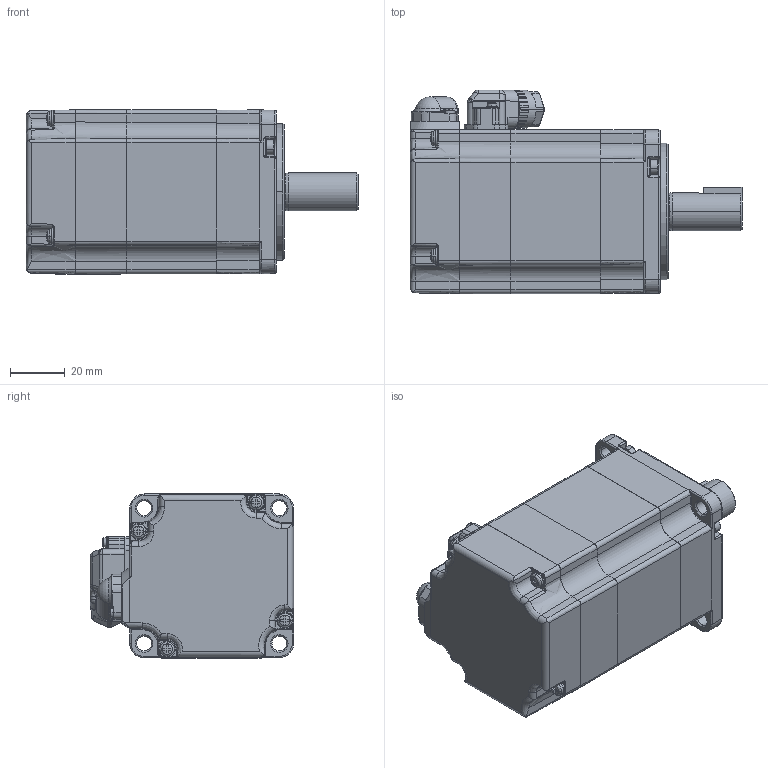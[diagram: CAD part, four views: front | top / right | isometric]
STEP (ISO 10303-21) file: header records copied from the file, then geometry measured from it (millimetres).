
FILE_DESCRIPTION( (''), '2;1');
FILE_NAME ('SGMXJ-04AUA6SC2.stp','2022-03-02T11:28:24',(''),(''),'spGate 15.6.6','','');
FILE_SCHEMA (('AUTOMOTIVE_DESIGN'));
Length unit declared in the file: millimetre
Products named in the file (9): Assembly; SGMXJ-04AUA6SC2-prt0; SGMXJ-04AUA6SC2-prt1; SGMXJ-04AUA6SC2-prt2; SGMXJ-04AUA6SC2-prt3; SGMXJ-04AUA6SC2-prt4; SGMXJ-04AUA6SC2-prt5; SGMXJ-04AUA6SC2-prt6; SGMXJ-04AUA6SC2-prt7
Assembly tree (8 placements, depth 2):
  Assembly
    SGMXJ-04AUA6SC2-prt0
    SGMXJ-04AUA6SC2-prt1
    SGMXJ-04AUA6SC2-prt2
    SGMXJ-04AUA6SC2-prt3
    SGMXJ-04AUA6SC2-prt4
    SGMXJ-04AUA6SC2-prt5
    SGMXJ-04AUA6SC2-prt6
    SGMXJ-04AUA6SC2-prt7
Bounding box: 121.5 x 74.58 x 60.27 mm (x, y, z)
Volume: 306806.6 mm3; surface area: 34121.8 mm2
Topology: 3 solids, 8 shells, 973 faces, 2527 edges, 1559 vertices
Faces by surface type: plane 365, cylinder 300, bspline 286, sphere 22
Entity records: 55507 total; most frequent: CARTESIAN_POINT 12956, ORIENTED_EDGE 4922, DIRECTION 4463, COLOUR_RGB 3491, PRESENTATION_STYLE_ASSIGNMENT 3491, STYLED_ITEM 3491, EDGE_CURVE 2510, DRAUGHTING_PRE_DEFINED_CURVE_FONT 2510
